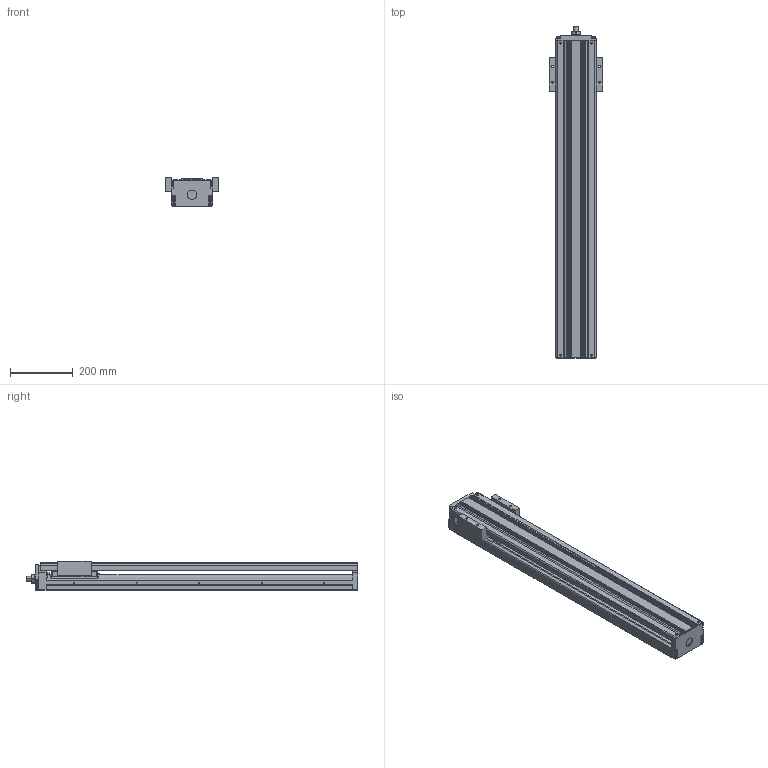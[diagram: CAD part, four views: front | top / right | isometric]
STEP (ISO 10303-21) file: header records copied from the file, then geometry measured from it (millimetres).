
FILE_DESCRIPTION(('no description'),'unknown implementation level');
FILE_NAME('KK13025P980A1H0C00_FILE_62.stp',' ',('HIWIN GmbH'),('CADClick - KiM GmbH - www.kimweb.de'),'unknown preprocess','ACIS','unknown authorization');
FILE_SCHEMA(('automotive_design'));
Length unit declared in the file: millimetre
Products named in the file (2): KK130_FILE; KK13025P980A1H0C00_FILE
Bounding box: 170 x 1062 x 94 mm (x, y, z)
Volume: 5082349.2 mm3; surface area: 993718.8 mm2
Topology: 2 solids, 17 shells, 912 faces, 2282 edges, 1479 vertices
Faces by surface type: plane 570, cylinder 292, torus 46, cone 2, sphere 2
Entity records: 53510 total; most frequent: DIRECTION 4848, CARTESIAN_POINT 4781, STYLED_ITEM 4673, PRESENTATION_STYLE_ASSIGNMENT 4673, COLOUR_RGB 4673, ORIENTED_EDGE 4560, EDGE_CURVE 2280, CURVE_STYLE 2280
